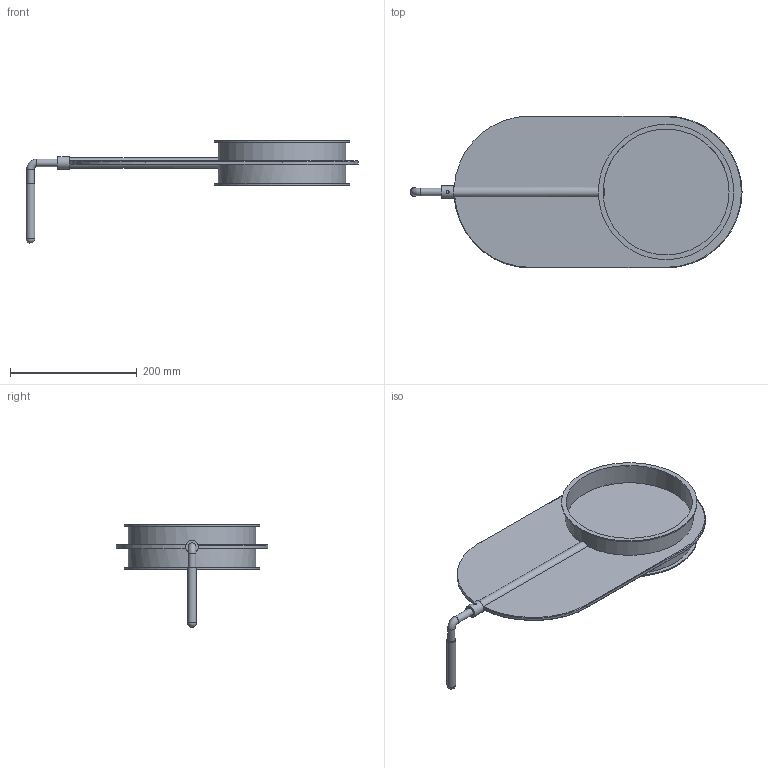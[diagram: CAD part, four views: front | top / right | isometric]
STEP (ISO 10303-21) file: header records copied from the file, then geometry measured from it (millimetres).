
FILE_DESCRIPTION((''),'2;1');
FILE_NAME('U:\Wolfgang\Marcel-3D\fertig\Kapitel 9\2011077.stp','2011-10-11T12:54:32',('iwienholt'),(''),'Autodesk Inventor 2010','Autodesk Inventor 2010','');
FILE_SCHEMA(('AUTOMOTIVE_DESIGN { 1 0 10303 214 1 1 1 1 }'));
Length unit declared in the file: millimetre
Products named in the file (3): 2011077; 2011077-1; Hebel-Ronde DN200
Assembly tree (2 placements, depth 2):
  2011077
    2011077-1
    Hebel-Ronde DN200
Bounding box: 524.42 x 240 x 161.95 mm (x, y, z)
Volume: 469544.5 mm3; surface area: 471464.4 mm2
Topology: 2 solids, 2 shells, 49 faces, 125 edges, 80 vertices
Faces by surface type: cylinder 24, plane 19, torus 5, sphere 1
Full cylindrical faces by diameter (mm): 4.917 x1, 12 x2, 12.5 x1, 14 x1, 16.5 x1, 20 x1, 199 x2, 202 x2, 214 x2
Entity records: 1634 total; most frequent: CARTESIAN_POINT 477, DIRECTION 234, ORIENTED_EDGE 196, AXIS2_PLACEMENT_3D 100, EDGE_CURVE 98, EDGE_LOOP 72, VERTEX_POINT 70, FACE_OUTER_BOUND 49
